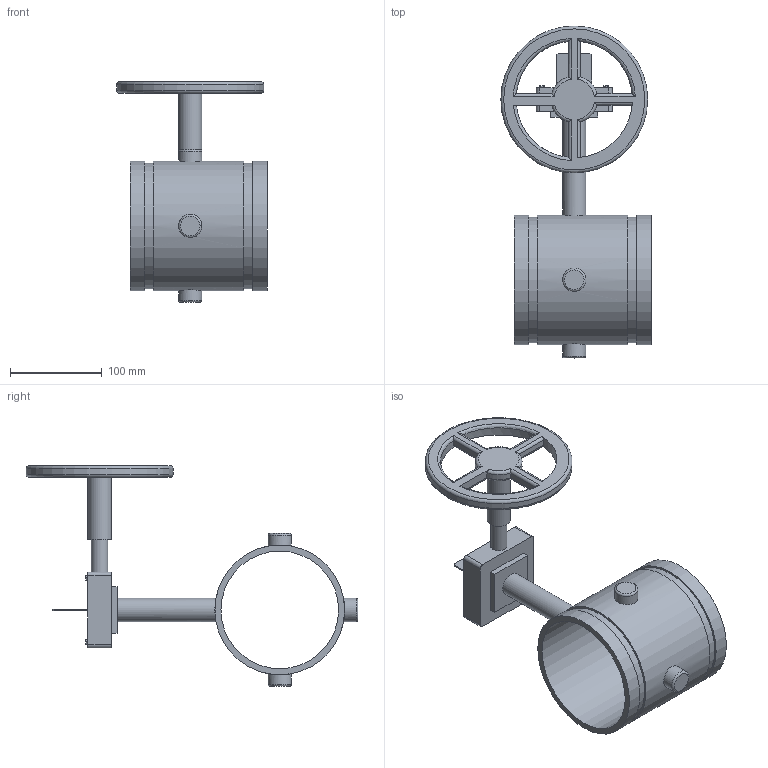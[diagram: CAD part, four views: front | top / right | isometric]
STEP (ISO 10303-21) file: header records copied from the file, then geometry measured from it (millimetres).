
FILE_DESCRIPTION(/* description */ ('VIC FIRELOCK BUTTERFLY VALVE SERIES 707-C W/ WEATHERPROOF ACTUATOR FOR 300 PSI','CAx-IF Rec.Pracs.---Representation and Presentation of Product Manufacturing Information (PMI)---4.0---2014-10-13'),/* implementation_level */ '2;1');
FILE_NAME(/* name */ 'C:\Users\Vjadhav\AppData\Roaming\Autodesk\ApplicationPlugins\Back Up\Victaulic_FP-FireLock_Valve Butterfly_Series 707C (OGS)-Closed\Victaulic_FP-FireLock_Valve Butterfly_Series 707C (OGS)-Closed_5 (125).stp',/* time_stamp */ '2020-07-20T15:15:00+06:00',/* author */ ('kkamble'),/* organization */ ('Victaulic'),/* preprocessor_version */ 'ST-DEVELOPER v17.2',/* originating_system */ 'Autodesk Inventor 2019',/* authorisation */ '');
FILE_SCHEMA (('AP242_MANAGED_MODEL_BASED_3D_ENGINEERING_MIM_LF { 1 0 10303 442 1 1 4 }'));
Length unit declared in the file: inch
Products named in the file (1): 707C-05.0
Bounding box: 163.83 x 361.44 x 240.54 mm (x, y, z)
Volume: 846068.2 mm3; surface area: 215423.7 mm2
Topology: 1 solids, 1 shells, 122 faces, 312 edges, 209 vertices
Faces by surface type: plane 66, cylinder 40, torus 16
Full cylindrical faces by diameter (mm): 17.78 x1, 25.4 x5, 128.194 x1, 137.033 x2, 141.3 x3, 160.02 x1
Entity records: 4445 total; most frequent: CARTESIAN_POINT 1165, DIRECTION 637, ORIENTED_EDGE 624, EDGE_CURVE 312, AXIS2_PLACEMENT_3D 229, VERTEX_POINT 209, LINE 179, VECTOR 179
